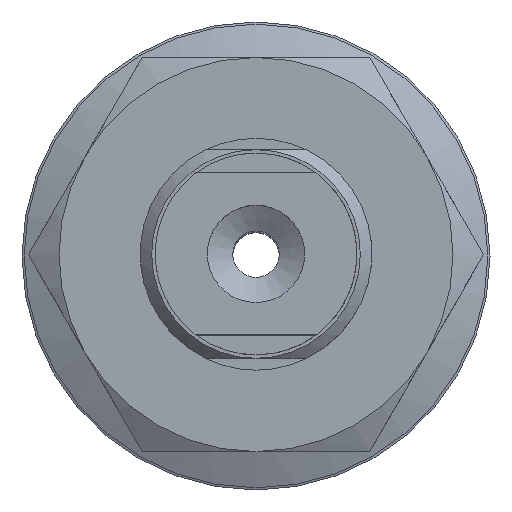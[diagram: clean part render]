
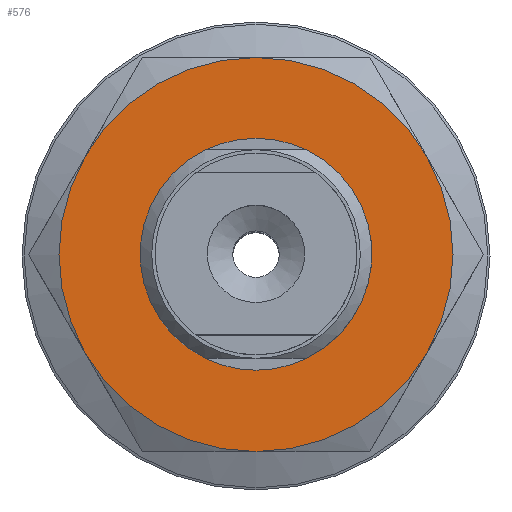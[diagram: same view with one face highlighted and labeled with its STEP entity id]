
A CAD part, top view. The second image highlights one B-rep face of the part: STEP entity #576.
In plain terms, the highlighted planar face has unit normal (0, 0, 1).
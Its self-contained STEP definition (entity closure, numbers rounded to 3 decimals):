
#576=ADVANCED_FACE('',(#841,#842),#843,.T.);
#841=FACE_BOUND('',#1259,.T.);
#842=FACE_OUTER_BOUND('',#1260,.T.);
#843=PLANE('',#1261);
#1259=EDGE_LOOP('',(#1969));
#1260=EDGE_LOOP('',(#1970,#1971,#1972,#1973,#1974,#1975));
#1261=AXIS2_PLACEMENT_3D('',#1976,#1977,#1978);
#1969=ORIENTED_EDGE('',*,*,#2642,.F.);
#1970=ORIENTED_EDGE('',*,*,#2647,.F.);
#1971=ORIENTED_EDGE('',*,*,#2649,.F.);
#1972=ORIENTED_EDGE('',*,*,#2628,.F.);
#1973=ORIENTED_EDGE('',*,*,#2623,.F.);
#1974=ORIENTED_EDGE('',*,*,#2651,.F.);
#1975=ORIENTED_EDGE('',*,*,#2648,.F.);
#1976=CARTESIAN_POINT('',(-9.815,-8.5,4.0));
#1977=DIRECTION('',(0.0,0.0,1.0));
#1978=DIRECTION('',(1.0,0.0,0.0));
#2623=EDGE_CURVE('',#2949,#2952,#2953,.T.);
#2628=EDGE_CURVE('',#2952,#2937,#2959,.T.);
#2642=EDGE_CURVE('',#2983,#2983,#2984,.T.);
#2647=EDGE_CURVE('',#2978,#2987,#2990,.T.);
#2648=EDGE_CURVE('',#2987,#2972,#2991,.T.);
#2649=EDGE_CURVE('',#2937,#2978,#2992,.T.);
#2651=EDGE_CURVE('',#2972,#2949,#2994,.T.);
#2937=VERTEX_POINT('',#3525);
#2949=VERTEX_POINT('',#3555);
#2952=VERTEX_POINT('',#3566);
#2953=CIRCLE('',#3567,8.5);
#2959=CIRCLE('',#3589,8.5);
#2972=VERTEX_POINT('',#3619);
#2978=VERTEX_POINT('',#3638);
#2983=VERTEX_POINT('',#3651);
#2984=CIRCLE('',#3652,4.5);
#2987=VERTEX_POINT('',#3659);
#2990=CIRCLE('',#3670,8.5);
#2991=CIRCLE('',#3671,8.5);
#2992=CIRCLE('',#3672,8.5);
#2994=CIRCLE('',#3674,8.5);
#3525=CARTESIAN_POINT('',(7.361,-4.25,4.0));
#3555=CARTESIAN_POINT('',(0.,8.5,4.0));
#3566=CARTESIAN_POINT('',(7.361,4.25,4.0));
#3567=AXIS2_PLACEMENT_3D('',#4109,#4110,#4111);
#3589=AXIS2_PLACEMENT_3D('',#4112,#4113,#4114);
#3619=CARTESIAN_POINT('',(-7.361,4.25,4.0));
#3638=CARTESIAN_POINT('',(0.,-8.5,4.0));
#3651=CARTESIAN_POINT('',(0.0,-4.5,4.0));
#3652=AXIS2_PLACEMENT_3D('',#4123,#4124,#4125);
#3659=CARTESIAN_POINT('',(-7.361,-4.25,4.0));
#3670=AXIS2_PLACEMENT_3D('',#4129,#4130,#4131);
#3671=AXIS2_PLACEMENT_3D('',#4132,#4133,#4134);
#3672=AXIS2_PLACEMENT_3D('',#4135,#4136,#4137);
#3674=AXIS2_PLACEMENT_3D('',#4141,#4142,#4143);
#4109=CARTESIAN_POINT('',(0.,0.,4.0));
#4110=DIRECTION('',(0.,0.,-1.0));
#4111=DIRECTION('',(0.866,0.5,0.));
#4112=CARTESIAN_POINT('',(0.,0.,4.0));
#4113=DIRECTION('',(0.,0.,-1.0));
#4114=DIRECTION('',(0.866,0.5,0.));
#4123=CARTESIAN_POINT('',(0.0,0.0,4.0));
#4124=DIRECTION('',(0.0,0.,1.0));
#4125=DIRECTION('',(0.0,-1.0,0.));
#4129=CARTESIAN_POINT('',(0.,0.,4.0));
#4130=DIRECTION('',(0.,0.,-1.0));
#4131=DIRECTION('',(0.866,0.5,0.));
#4132=CARTESIAN_POINT('',(0.,0.,4.0));
#4133=DIRECTION('',(0.,0.,-1.0));
#4134=DIRECTION('',(0.866,0.5,0.));
#4135=CARTESIAN_POINT('',(0.,0.,4.0));
#4136=DIRECTION('',(0.,0.,-1.0));
#4137=DIRECTION('',(0.866,0.5,0.));
#4141=CARTESIAN_POINT('',(0.,0.,4.0));
#4142=DIRECTION('',(0.,0.,-1.0));
#4143=DIRECTION('',(0.866,0.5,0.));
